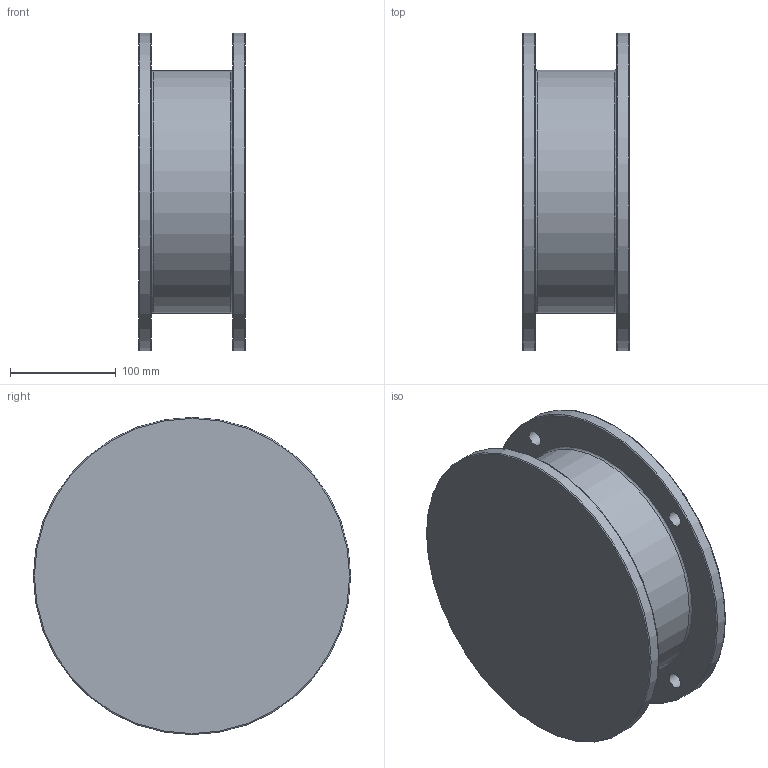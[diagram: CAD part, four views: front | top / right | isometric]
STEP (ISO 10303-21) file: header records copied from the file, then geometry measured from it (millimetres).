
FILE_DESCRIPTION((''),'2;1');
FILE_NAME('D:\PAWEŁ\ZLECENIA\2011 DualSystem\Przekładnie DR\DR90\STEP\132_B5_L101.stp','2012-06-11T12:21:41',('admin'),(''),'Autodesk Inventor 2009','Autodesk Inventor 2009','');
FILE_SCHEMA(('AUTOMOTIVE_DESIGN { 1 0 10303 214 1 1 1 1 }'));
Length unit declared in the file: millimetre
Products named in the file (1): 132_B5_L101
Bounding box: 101 x 300 x 300 mm (x, y, z)
Volume: 1704427.1 mm3; surface area: 362484.3 mm2
Topology: 1 solids, 1 shells, 29 faces, 56 edges, 35 vertices
Faces by surface type: plane 11, cylinder 7, bspline 6, torus 5
Full cylindrical faces by diameter (mm): 62 x1, 218 x1, 230 x2, 300 x2
Entity records: 857 total; most frequent: CARTESIAN_POINT 260, DIRECTION 116, ORIENTED_EDGE 78, EDGE_LOOP 60, AXIS2_PLACEMENT_3D 53, EDGE_CURVE 39, VERTEX_POINT 35, FACE_BOUND 31
